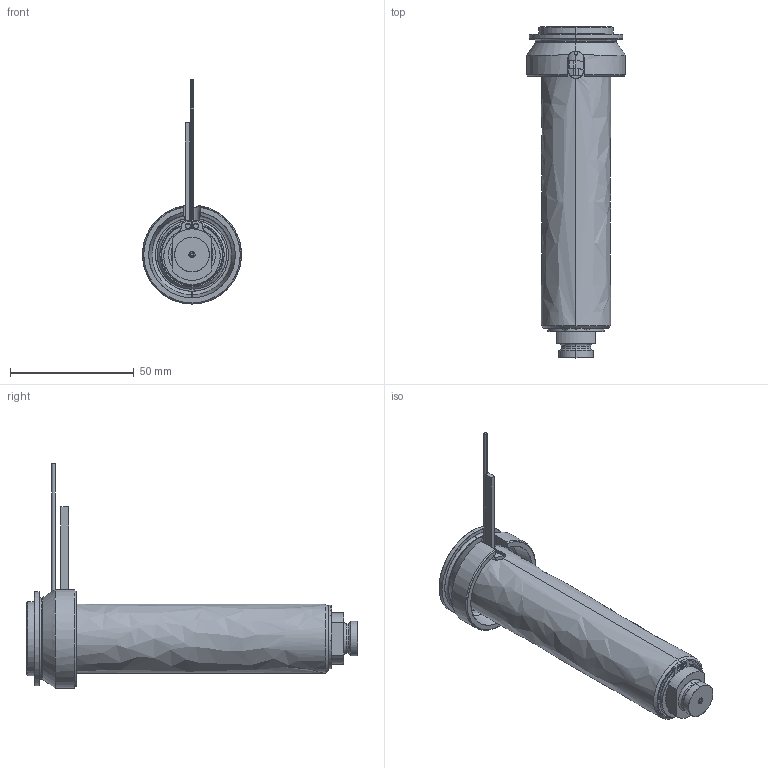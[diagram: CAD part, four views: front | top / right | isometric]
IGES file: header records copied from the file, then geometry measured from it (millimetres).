
Start section: SolidWorks IGES file using analytic representation for surfaces
Global section: file name: C:\Documents and Settings\ws-20\Desktop\TEM\UGEP4103-M-A-1 [Øf-1.17 P-0 ØC-09].IGS; native system: SolidWorks 2012; preprocessor: SolidWorks 2012; author: ws-20; date: 120426.085024; units: millimetre
Bounding box: 40 x 134.25 x 90.65 mm (x, y, z)
Surface area: 40966.6 mm2 (no closed solid volume)
Topology: 0 solids, 0 shells, 111 faces, 1844 edges, 1844 vertices
Faces by surface type: revolution 64, bspline 47
